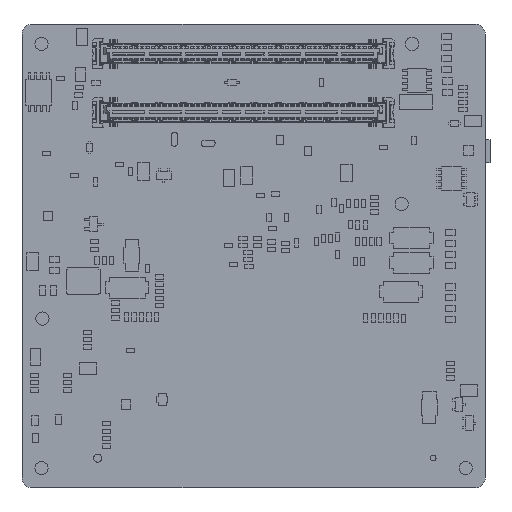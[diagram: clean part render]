
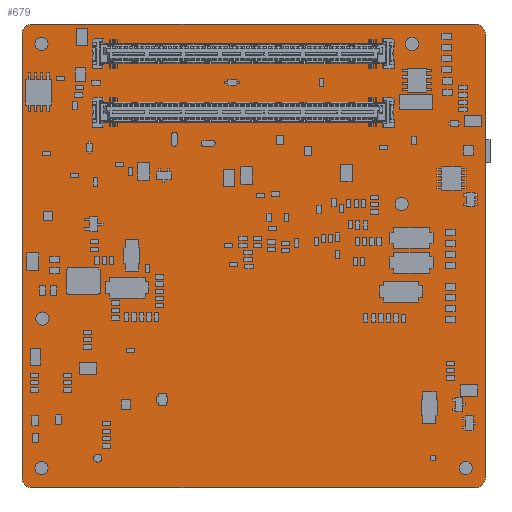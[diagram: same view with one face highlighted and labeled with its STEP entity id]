
A CAD part, front view. The second image highlights one B-rep face of the part: STEP entity #679.
In plain terms, the highlighted planar face has unit normal (0, -1, 0).
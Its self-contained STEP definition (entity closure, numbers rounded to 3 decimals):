
#16=CARTESIAN_POINT('',(-91.,0.,-4.));
#17=DIRECTION('',(0.,-1.,0.));
#18=DIRECTION('',(1.,0.,0.));
#19=AXIS2_PLACEMENT_3D('',#16,#17,#18);
#21=CARTESIAN_POINT('',(-91.,0.,-4.));
#22=DIRECTION('',(0.,-1.,0.));
#23=DIRECTION('',(-1.,0.,0.));
#24=AXIS2_PLACEMENT_3D('',#21,#22,#23);
#26=CARTESIAN_POINT('',(-91.,0.,-91.));
#27=DIRECTION('',(0.,-1.,0.));
#28=DIRECTION('',(1.,0.,0.));
#29=AXIS2_PLACEMENT_3D('',#26,#27,#28);
#31=CARTESIAN_POINT('',(-91.,0.,-91.));
#32=DIRECTION('',(0.,-1.,0.));
#33=DIRECTION('',(-1.,0.,0.));
#34=AXIS2_PLACEMENT_3D('',#31,#32,#33);
#36=CARTESIAN_POINT('',(-4.,0.,-91.));
#37=DIRECTION('',(0.,-1.,0.));
#38=DIRECTION('',(1.,0.,0.));
#39=AXIS2_PLACEMENT_3D('',#36,#37,#38);
#41=CARTESIAN_POINT('',(-4.,0.,-91.));
#42=DIRECTION('',(0.,-1.,0.));
#43=DIRECTION('',(-1.,0.,0.));
#44=AXIS2_PLACEMENT_3D('',#41,#42,#43);
#46=CARTESIAN_POINT('',(-15.,0.,-4.));
#47=DIRECTION('',(0.,-1.,0.));
#48=DIRECTION('',(1.,0.,0.));
#49=AXIS2_PLACEMENT_3D('',#46,#47,#48);
#51=CARTESIAN_POINT('',(-15.,0.,-4.));
#52=DIRECTION('',(0.,-1.,0.));
#53=DIRECTION('',(-1.,0.,0.));
#54=AXIS2_PLACEMENT_3D('',#51,#52,#53);
#56=CARTESIAN_POINT('',(-93.,0.,-2.));
#57=DIRECTION('',(0.,-1.,0.));
#58=DIRECTION('',(0.,0.,1.));
#59=AXIS2_PLACEMENT_3D('',#56,#57,#58);
#61=DIRECTION('',(1.,0.,0.));
#62=VECTOR('',#61,91.);
#63=CARTESIAN_POINT('',(-93.,0.,0.));
#64=LINE('',#63,#62);
#65=CARTESIAN_POINT('',(-2.,0.,-2.));
#66=DIRECTION('',(0.,-1.,0.));
#67=DIRECTION('',(1.,0.,0.));
#68=AXIS2_PLACEMENT_3D('',#65,#66,#67);
#70=DIRECTION('',(0.,0.,-1.));
#71=VECTOR('',#70,91.);
#72=CARTESIAN_POINT('',(0.,0.,-2.));
#73=LINE('',#72,#71);
#74=CARTESIAN_POINT('',(-2.,0.,-93.));
#75=DIRECTION('',(0.,-1.,0.));
#76=DIRECTION('',(0.,0.,-1.));
#77=AXIS2_PLACEMENT_3D('',#74,#75,#76);
#79=DIRECTION('',(-1.,0.,0.));
#80=VECTOR('',#79,91.);
#81=CARTESIAN_POINT('',(-2.,0.,-95.));
#82=LINE('',#81,#80);
#83=CARTESIAN_POINT('',(-93.,0.,-93.));
#84=DIRECTION('',(0.,-1.,0.));
#85=DIRECTION('',(-1.,0.,0.));
#86=AXIS2_PLACEMENT_3D('',#83,#84,#85);
#88=DIRECTION('',(0.,0.,1.));
#89=VECTOR('',#88,91.);
#90=CARTESIAN_POINT('',(-95.,0.,-93.));
#91=LINE('',#90,#89);
#92=CARTESIAN_POINT('',(-78.5,0.,-6.));
#93=DIRECTION('',(0.,1.,0.));
#94=DIRECTION('',(1.,0.,0.));
#95=AXIS2_PLACEMENT_3D('',#92,#93,#94);
#97=CARTESIAN_POINT('',(-78.5,0.,-6.));
#98=DIRECTION('',(0.,1.,0.));
#99=DIRECTION('',(-1.,0.,0.));
#100=AXIS2_PLACEMENT_3D('',#97,#98,#99);
#102=CARTESIAN_POINT('',(-20.8,0.,-6.));
#103=DIRECTION('',(0.,1.,0.));
#104=DIRECTION('',(1.,0.,0.));
#105=AXIS2_PLACEMENT_3D('',#102,#103,#104);
#107=CARTESIAN_POINT('',(-20.8,0.,-6.));
#108=DIRECTION('',(0.,1.,0.));
#109=DIRECTION('',(-1.,0.,0.));
#110=AXIS2_PLACEMENT_3D('',#107,#108,#109);
#112=CARTESIAN_POINT('',(-78.5,0.,-18.));
#113=DIRECTION('',(0.,1.,0.));
#114=DIRECTION('',(1.,0.,0.));
#115=AXIS2_PLACEMENT_3D('',#112,#113,#114);
#117=CARTESIAN_POINT('',(-78.5,0.,-18.));
#118=DIRECTION('',(0.,1.,0.));
#119=DIRECTION('',(-1.,0.,0.));
#120=AXIS2_PLACEMENT_3D('',#117,#118,#119);
#122=CARTESIAN_POINT('',(-20.8,0.,-18.));
#123=DIRECTION('',(0.,1.,0.));
#124=DIRECTION('',(1.,0.,0.));
#125=AXIS2_PLACEMENT_3D('',#122,#123,#124);
#127=CARTESIAN_POINT('',(-20.8,0.,-18.));
#128=DIRECTION('',(0.,1.,0.));
#129=DIRECTION('',(-1.,0.,0.));
#130=AXIS2_PLACEMENT_3D('',#127,#128,#129);
#132=CARTESIAN_POINT('',(-90.8,0.,-60.325));
#133=DIRECTION('',(0.,1.,0.));
#134=DIRECTION('',(-1.,0.,0.));
#135=AXIS2_PLACEMENT_3D('',#132,#133,#134);
#137=CARTESIAN_POINT('',(-90.8,0.,-60.325));
#138=DIRECTION('',(0.,1.,0.));
#139=DIRECTION('',(1.,0.,0.));
#140=AXIS2_PLACEMENT_3D('',#137,#138,#139);
#142=CARTESIAN_POINT('',(-17.144,0.,-36.829));
#143=DIRECTION('',(0.,1.,0.));
#144=DIRECTION('',(1.,0.,0.));
#145=AXIS2_PLACEMENT_3D('',#142,#143,#144);
#147=CARTESIAN_POINT('',(-17.144,0.,-36.829));
#148=DIRECTION('',(0.,1.,0.));
#149=DIRECTION('',(-1.,0.,0.));
#150=AXIS2_PLACEMENT_3D('',#147,#148,#149);
#152=CARTESIAN_POINT('',(-79.485,0.,-88.935));
#153=DIRECTION('',(0.,-1.,0.));
#154=DIRECTION('',(-1.,0.,0.));
#155=AXIS2_PLACEMENT_3D('',#152,#153,#154);
#157=CARTESIAN_POINT('',(-79.485,0.,-88.935));
#158=DIRECTION('',(0.,-1.,0.));
#159=DIRECTION('',(1.,0.,0.));
#160=AXIS2_PLACEMENT_3D('',#157,#158,#159);
#162=CARTESIAN_POINT('',(-10.685,0.,-88.935));
#163=DIRECTION('',(0.,-1.,0.));
#164=DIRECTION('',(-1.,0.,0.));
#165=AXIS2_PLACEMENT_3D('',#162,#163,#164);
#167=CARTESIAN_POINT('',(-10.685,0.,-88.935));
#168=DIRECTION('',(0.,-1.,0.));
#169=DIRECTION('',(1.,0.,0.));
#170=AXIS2_PLACEMENT_3D('',#167,#168,#169);
#456=CARTESIAN_POINT('',(-93.,0.,0.));
#457=CARTESIAN_POINT('',(-95.,0.,-2.));
#458=VERTEX_POINT('',#456);
#459=VERTEX_POINT('',#457);
#464=CARTESIAN_POINT('',(0.,0.,-2.));
#465=CARTESIAN_POINT('',(-2.,0.,0.));
#466=VERTEX_POINT('',#464);
#467=VERTEX_POINT('',#465);
#472=CARTESIAN_POINT('',(-2.,0.,-95.));
#473=CARTESIAN_POINT('',(0.,0.,-93.));
#474=VERTEX_POINT('',#472);
#475=VERTEX_POINT('',#473);
#480=CARTESIAN_POINT('',(-95.,0.,-93.));
#481=CARTESIAN_POINT('',(-93.,0.,-95.));
#482=VERTEX_POINT('',#480);
#483=VERTEX_POINT('',#481);
#488=CARTESIAN_POINT('',(-89.65,0.,-4.));
#489=CARTESIAN_POINT('',(-92.35,0.,-4.));
#490=VERTEX_POINT('',#488);
#491=VERTEX_POINT('',#489);
#492=CARTESIAN_POINT('',(-89.65,0.,-91.));
#493=CARTESIAN_POINT('',(-92.35,0.,-91.));
#494=VERTEX_POINT('',#492);
#495=VERTEX_POINT('',#493);
#496=CARTESIAN_POINT('',(-2.65,0.,-91.));
#497=CARTESIAN_POINT('',(-5.35,0.,-91.));
#498=VERTEX_POINT('',#496);
#499=VERTEX_POINT('',#497);
#512=CARTESIAN_POINT('',(-78.05,0.,-6.));
#513=CARTESIAN_POINT('',(-78.95,0.,-6.));
#514=VERTEX_POINT('',#512);
#515=VERTEX_POINT('',#513);
#516=CARTESIAN_POINT('',(-20.,0.,-6.));
#517=CARTESIAN_POINT('',(-21.6,0.,-6.));
#518=VERTEX_POINT('',#516);
#519=VERTEX_POINT('',#517);
#520=CARTESIAN_POINT('',(-78.05,0.,-18.));
#521=CARTESIAN_POINT('',(-78.95,0.,-18.));
#522=VERTEX_POINT('',#520);
#523=VERTEX_POINT('',#521);
#536=CARTESIAN_POINT('',(-20.,0.,-18.));
#537=CARTESIAN_POINT('',(-21.6,0.,-18.));
#538=VERTEX_POINT('',#536);
#539=VERTEX_POINT('',#537);
#544=CARTESIAN_POINT('',(-92.15,0.,-60.325));
#545=CARTESIAN_POINT('',(-89.45,0.,-60.325));
#546=VERTEX_POINT('',#544);
#547=VERTEX_POINT('',#545);
#552=CARTESIAN_POINT('',(-13.65,0.,-4.));
#553=CARTESIAN_POINT('',(-16.35,0.,-4.));
#554=VERTEX_POINT('',#552);
#555=VERTEX_POINT('',#553);
#560=CARTESIAN_POINT('',(-80.31,0.,-88.935));
#561=CARTESIAN_POINT('',(-78.659,0.,-88.935));
#562=VERTEX_POINT('',#560);
#563=VERTEX_POINT('',#561);
#564=CARTESIAN_POINT('',(-11.282,0.,-88.935));
#565=CARTESIAN_POINT('',(-10.088,0.,-88.935));
#566=VERTEX_POINT('',#564);
#567=VERTEX_POINT('',#565);
#580=CARTESIAN_POINT('',(-15.794,0.,-36.829));
#581=VERTEX_POINT('',#580);
#582=CARTESIAN_POINT('',(-18.494,0.,-36.829));
#583=VERTEX_POINT('',#582);
#584=CARTESIAN_POINT('',(0.,0.,0.));
#585=DIRECTION('',(0.,1.,0.));
#586=DIRECTION('',(1.,0.,0.));
#587=AXIS2_PLACEMENT_3D('',#584,#585,#586);
#588=PLANE('',#587);
#590=ORIENTED_EDGE('',*,*,#589,.F.);
#592=ORIENTED_EDGE('',*,*,#591,.T.);
#594=ORIENTED_EDGE('',*,*,#593,.F.);
#596=ORIENTED_EDGE('',*,*,#595,.T.);
#598=ORIENTED_EDGE('',*,*,#597,.F.);
#600=ORIENTED_EDGE('',*,*,#599,.T.);
#602=ORIENTED_EDGE('',*,*,#601,.F.);
#604=ORIENTED_EDGE('',*,*,#603,.T.);
#605=EDGE_LOOP('',(#590,#592,#594,#596,#598,#600,#602,#604));
#606=FACE_OUTER_BOUND('',#605,.F.);
#608=ORIENTED_EDGE('',*,*,#607,.T.);
#610=ORIENTED_EDGE('',*,*,#609,.T.);
#611=EDGE_LOOP('',(#608,#610));
#612=FACE_BOUND('',#611,.F.);
#614=ORIENTED_EDGE('',*,*,#613,.T.);
#616=ORIENTED_EDGE('',*,*,#615,.T.);
#617=EDGE_LOOP('',(#614,#616));
#618=FACE_BOUND('',#617,.F.);
#620=ORIENTED_EDGE('',*,*,#619,.T.);
#622=ORIENTED_EDGE('',*,*,#621,.T.);
#623=EDGE_LOOP('',(#620,#622));
#624=FACE_BOUND('',#623,.F.);
#626=ORIENTED_EDGE('',*,*,#625,.T.);
#628=ORIENTED_EDGE('',*,*,#627,.T.);
#629=EDGE_LOOP('',(#626,#628));
#630=FACE_BOUND('',#629,.F.);
#632=ORIENTED_EDGE('',*,*,#631,.F.);
#634=ORIENTED_EDGE('',*,*,#633,.F.);
#635=EDGE_LOOP('',(#632,#634));
#636=FACE_BOUND('',#635,.F.);
#638=ORIENTED_EDGE('',*,*,#637,.F.);
#640=ORIENTED_EDGE('',*,*,#639,.F.);
#641=EDGE_LOOP('',(#638,#640));
#642=FACE_BOUND('',#641,.F.);
#644=ORIENTED_EDGE('',*,*,#643,.F.);
#646=ORIENTED_EDGE('',*,*,#645,.F.);
#647=EDGE_LOOP('',(#644,#646));
#648=FACE_BOUND('',#647,.F.);
#650=ORIENTED_EDGE('',*,*,#649,.F.);
#652=ORIENTED_EDGE('',*,*,#651,.F.);
#653=EDGE_LOOP('',(#650,#652));
#654=FACE_BOUND('',#653,.F.);
#656=ORIENTED_EDGE('',*,*,#655,.F.);
#658=ORIENTED_EDGE('',*,*,#657,.F.);
#659=EDGE_LOOP('',(#656,#658));
#660=FACE_BOUND('',#659,.F.);
#662=ORIENTED_EDGE('',*,*,#661,.F.);
#664=ORIENTED_EDGE('',*,*,#663,.F.);
#665=EDGE_LOOP('',(#662,#664));
#666=FACE_BOUND('',#665,.F.);
#668=ORIENTED_EDGE('',*,*,#667,.T.);
#670=ORIENTED_EDGE('',*,*,#669,.T.);
#671=EDGE_LOOP('',(#668,#670));
#672=FACE_BOUND('',#671,.F.);
#674=ORIENTED_EDGE('',*,*,#673,.T.);
#676=ORIENTED_EDGE('',*,*,#675,.T.);
#677=EDGE_LOOP('',(#674,#676));
#678=FACE_BOUND('',#677,.F.);
#20=CIRCLE('',#19,1.35);
#25=CIRCLE('',#24,1.35);
#30=CIRCLE('',#29,1.35);
#35=CIRCLE('',#34,1.35);
#40=CIRCLE('',#39,1.35);
#45=CIRCLE('',#44,1.35);
#50=CIRCLE('',#49,1.35);
#55=CIRCLE('',#54,1.35);
#60=CIRCLE('',#59,2.);
#69=CIRCLE('',#68,2.);
#78=CIRCLE('',#77,2.);
#87=CIRCLE('',#86,2.);
#96=CIRCLE('',#95,0.45);
#101=CIRCLE('',#100,0.45);
#106=CIRCLE('',#105,0.8);
#111=CIRCLE('',#110,0.8);
#116=CIRCLE('',#115,0.45);
#121=CIRCLE('',#120,0.45);
#126=CIRCLE('',#125,0.8);
#131=CIRCLE('',#130,0.8);
#136=CIRCLE('',#135,1.35);
#141=CIRCLE('',#140,1.35);
#146=CIRCLE('',#145,1.35);
#151=CIRCLE('',#150,1.35);
#156=CIRCLE('',#155,0.826);
#161=CIRCLE('',#160,0.826);
#166=CIRCLE('',#165,0.597);
#171=CIRCLE('',#170,0.597);
#589=EDGE_CURVE('',#458,#459,#60,.T.);
#591=EDGE_CURVE('',#458,#467,#64,.T.);
#593=EDGE_CURVE('',#466,#467,#69,.T.);
#595=EDGE_CURVE('',#466,#475,#73,.T.);
#597=EDGE_CURVE('',#474,#475,#78,.T.);
#599=EDGE_CURVE('',#474,#483,#82,.T.);
#601=EDGE_CURVE('',#482,#483,#87,.T.);
#603=EDGE_CURVE('',#482,#459,#91,.T.);
#607=EDGE_CURVE('',#494,#495,#30,.T.);
#609=EDGE_CURVE('',#495,#494,#35,.T.);
#613=EDGE_CURVE('',#498,#499,#40,.T.);
#615=EDGE_CURVE('',#499,#498,#45,.T.);
#619=EDGE_CURVE('',#554,#555,#50,.T.);
#621=EDGE_CURVE('',#555,#554,#55,.T.);
#625=EDGE_CURVE('',#490,#491,#20,.T.);
#627=EDGE_CURVE('',#491,#490,#25,.T.);
#631=EDGE_CURVE('',#514,#515,#96,.T.);
#633=EDGE_CURVE('',#515,#514,#101,.T.);
#637=EDGE_CURVE('',#518,#519,#106,.T.);
#639=EDGE_CURVE('',#519,#518,#111,.T.);
#643=EDGE_CURVE('',#522,#523,#116,.T.);
#645=EDGE_CURVE('',#523,#522,#121,.T.);
#649=EDGE_CURVE('',#538,#539,#126,.T.);
#651=EDGE_CURVE('',#539,#538,#131,.T.);
#655=EDGE_CURVE('',#546,#547,#136,.T.);
#657=EDGE_CURVE('',#547,#546,#141,.T.);
#661=EDGE_CURVE('',#581,#583,#146,.T.);
#663=EDGE_CURVE('',#583,#581,#151,.T.);
#667=EDGE_CURVE('',#562,#563,#156,.T.);
#669=EDGE_CURVE('',#563,#562,#161,.T.);
#673=EDGE_CURVE('',#566,#567,#166,.T.);
#675=EDGE_CURVE('',#567,#566,#171,.T.);
#679=ADVANCED_FACE('',(#606,#612,#618,#624,#630,#636,#642,#648,#654,#660,#666,
#672,#678),#588,.F.);
